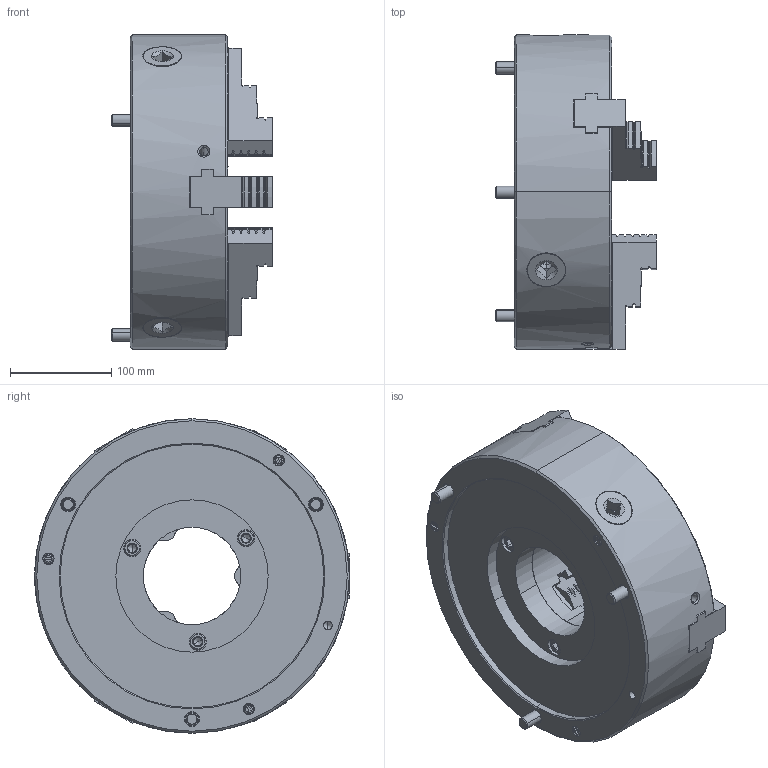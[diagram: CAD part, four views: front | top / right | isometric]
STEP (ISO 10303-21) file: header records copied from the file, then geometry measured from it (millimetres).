
FILE_DESCRIPTION (( 'STEP AP214' ), '1' );
FILE_NAME ('JN12-101 61S2120617 ASSY.STEP', '2026-03-16T23:57:07', ( '' ), ( '' ), 'SwSTEP 2.0', 'SolidWorks 2022', '' );
FILE_SCHEMA (( 'AUTOMOTIVE_DESIGN' ));
Length unit declared in the file: millimetre
Products named in the file (3): JN12-101 61S2120617 ASSY; INTERNAL JAW^JN12-101 61S2120617 ASSY; Part9^JN12-101 61S2120617 ASSY
Assembly tree (4 placements, depth 2):
  JN12-101 61S2120617 ASSY
    INTERNAL JAW^JN12-101 61S2120617 ASSY  x3
    Part9^JN12-101 61S2120617 ASSY
Bounding box: 158.5 x 310 x 310 mm (x, y, z)
Volume: 6328322 mm3; surface area: 414465.8 mm2
Topology: 4 solids, 13 shells, 1232 faces, 3291 edges, 2142 vertices
Faces by surface type: plane 582, cone 215, bspline 190, cylinder 180, torus 61, sphere 4
Entity records: 47395 total; most frequent: CARTESIAN_POINT 23122, ORIENTED_EDGE 5384, DIRECTION 4245, EDGE_CURVE 2692, VERTEX_POINT 1763, VECTOR 1565, LINE 1565, AXIS2_PLACEMENT_3D 1340
